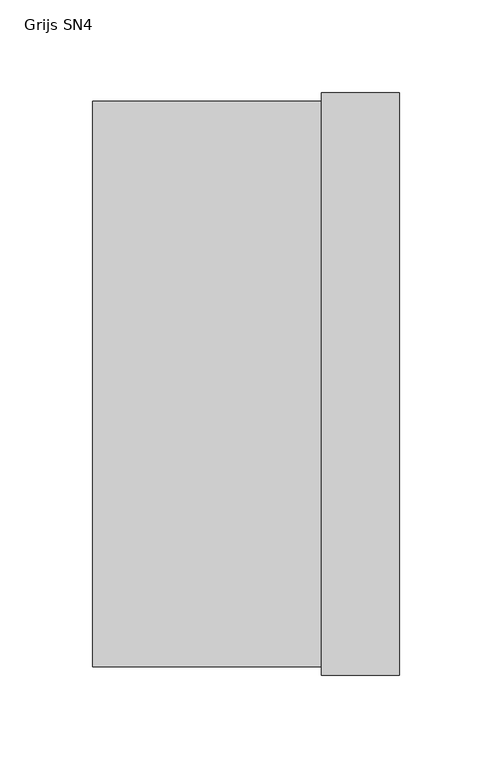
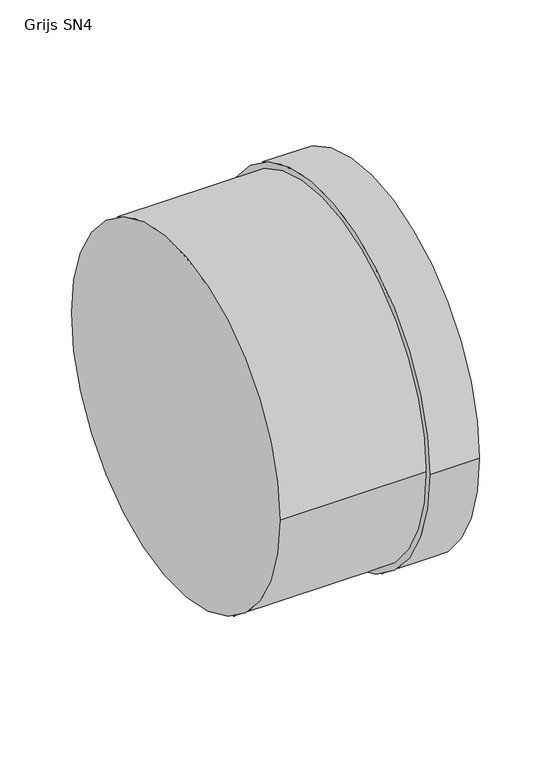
"""IFC4 building model written with IfcOpenShell, lengths in millimetres: pipe fitting geometry, NLRS_52_PIF_UN_SN4 SN8 afsluitkap_Dyka : Grijs SN4."""

from ifc_helpers import new_model, si_unit, point, frame, origin, origin_2d, place, context, project, spatial, circle_curve, trimmed, segment, composite_curve, outline, extrude, source, transform, mapped, element, save


def grijs_sn4_6462fbab(model_context):
    return source(origin(), model_context, "Body", "SweptSolid", [
        extrude(outline(composite_curve([segment(trimmed(circle_curve(origin_2d(), 157.5), [point((-157.5, 0.0))], [point((157.5, 0.0))], False, "CARTESIAN"), True, "CONTINUOUS"), segment(trimmed(circle_curve(origin_2d(), 157.5), [point((157.5, 0.0))], [point((-157.5, 0.0))], False, "CARTESIAN"), True, "CONTINUOUS")], self_intersect=False)), frame((0.0, 0.0, 0.0), z_axis=(1.0, 0.0, 0.0), x_axis=(0.0, 1.0, 0.0)), (0.0, 0.0, 1.0), 42.0),
        extrude(outline(composite_curve([segment(trimmed(circle_curve(origin_2d(), 152.7), [point((-152.7, 0.0))], [point((152.7, 0.0))], False, "CARTESIAN"), True, "CONTINUOUS"), segment(trimmed(circle_curve(origin_2d(), 152.7), [point((152.7, 0.0))], [point((-152.7, 0.0))], False, "CARTESIAN"), True, "CONTINUOUS")], self_intersect=False)), frame((-124.0, 0.0, 0.0), z_axis=(1.0, 0.0, 0.0), x_axis=(0.0, 1.0, 0.0)), (0.0, 0.0, 1.0), 124.0),
    ])


if __name__ == "__main__":
    model = new_model("IFC4")
    model_context = context("Model", 3, world=origin())
    ifc_project = project(units=[si_unit("LENGTHUNIT", "METRE", prefix="MILLI")], contexts=[model_context])
    site = spatial("IfcSite", under=ifc_project)
    building = spatial("IfcBuilding", under=site)
    placement = place(None, origin())
    grijs_sn4_shape = grijs_sn4_6462fbab(model_context)
    element("IfcPipeFitting", 1, ObjectType="NLRS_52_PIF_UN_SN4 SN8 afsluitkap_Dyka : Grijs SN4", at=placement, inside=building, context=model_context, shape_type="MappedRepresentation", body=[
        mapped(grijs_sn4_shape, transform((0.0, 0.0, 0.0), x_axis=(1.0, 0.0, 0.0), y_axis=(0.0, 1.0, 0.0), z_axis=(0.0, 0.0, 1.0))),
    ])
    save(model, "model.ifc")
